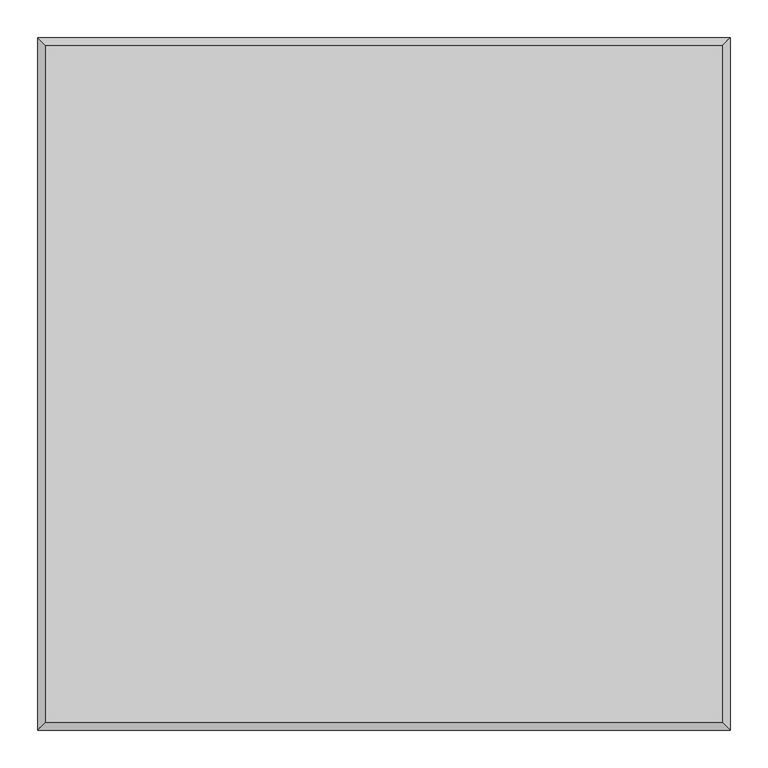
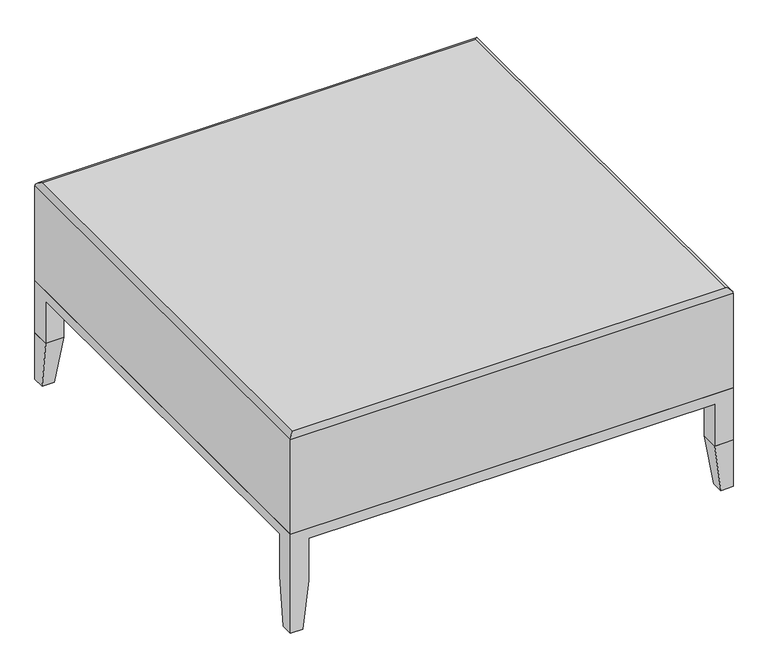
"""IFC4 building model written with IfcOpenShell, lengths in millimetres: furniture geometry, Steelcase Coalesse - Passerelle - Seating - Ottoman : 36D x 36W."""

from ifc_helpers import new_model, si_unit, frame, origin, place, context, project, spatial, ellipse_curve, faceted_brep, source, transform, mapped, element, save
from ifc_brep_helpers import plane_surface, cylinder_surface, advanced_brep


def furniture_ded83b1d(model_context):
    return source(origin(), model_context, "Body", "SolidModel", [
        advanced_brep(
        [(-663.917922, -702.9474749, 422.1580675), (-663.917922, -702.9474749, 215.8999939), (250.482078, -702.9474749, 215.8999939), (250.482078, -702.9474749, 422.1580675), (240.8401576, -693.3055545, 431.7999879), (-654.2760016, -693.3055545, 431.7999879), (250.482078, 211.4525251, 215.8999939), (250.482078, 211.4525251, 422.1580675), (240.8401576, 201.8106047, 431.7999879), (-663.917922, 211.4525251, 215.8999939), (-663.917922, 211.4525251, 422.1580675), (-654.2760016, 201.8106047, 431.7999879)],
        [
            (0, 1),
            (1, 2),
            (2, 3),
            (3, 0),
            (3, 4, ellipse_curve(frame((240.8401576, -693.3055545, 422.1580675), z_axis=(-0.7071067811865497, -0.7071067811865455, 0.0), x_axis=(-0.7071067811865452, 0.7071067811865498, 0.0)), 13.6357346, 9.6419204)),
            (4, 5),
            (5, 0, ellipse_curve(frame((-654.2760016, -693.3055545, 422.1580675), z_axis=(0.7071067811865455, -0.7071067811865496, 0.0), x_axis=(-0.7071067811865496, -0.7071067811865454, 0.0)), 13.6357346, 9.6419204)),
            (2, 6),
            (6, 7),
            (7, 3),
            (7, 8, ellipse_curve(frame((240.8401576, 201.8106047, 422.1580675), z_axis=(0.7071067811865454, -0.7071067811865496, 0.0), x_axis=(-0.7071067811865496, -0.7071067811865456, 0.0)), 13.6357346, 9.6419204)),
            (8, 4),
            (6, 9),
            (9, 10),
            (10, 7),
            (10, 11, ellipse_curve(frame((-654.2760016, 201.8106047, 422.1580675), z_axis=(0.7071067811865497, 0.7071067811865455, 0.0), x_axis=(0.7071067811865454, -0.7071067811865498, 0.0)), 13.6357346, 9.6419204)),
            (11, 8),
            (0, 10),
            (9, 1),
            (5, 11),
        ],
        [
            plane_surface(frame((-663.917922, -702.9474749, 215.8999939), z_axis=(0.0, -1.0, 0.0), x_axis=(1.0, 0.0, 0.0))),
            cylinder_surface(frame((-651.217922, -693.3055545, 422.1580675), z_axis=(-1.0, 0.0, 0.0), x_axis=(0.0, 1.0, 0.0)), 9.6419204),
            plane_surface(frame((250.482078, -702.9474749, 215.8999939), z_axis=(1.0, 0.0, 0.0), x_axis=(0.0, 1.0, 0.0))),
            cylinder_surface(frame((240.8401576, -690.2474749, 422.1580675), z_axis=(0.0, -1.0, 0.0), x_axis=(-1.0, 0.0, 0.0)), 9.6419204),
            plane_surface(frame((250.482078, 211.4525251, 215.8999939), z_axis=(0.0, 1.0, 0.0), x_axis=(-1.0, 0.0, 0.0))),
            cylinder_surface(frame((237.782078, 201.8106047, 422.1580675), z_axis=(1.0, 0.0, 0.0), x_axis=(0.0, -1.0, 0.0)), 9.6419204),
            plane_surface(frame((-663.917922, 211.4525251, 215.8999939), z_axis=(-1.0, 0.0, 0.0), x_axis=(0.0, -1.0, 0.0))),
            cylinder_surface(frame((-654.2760016, 198.7525251, 422.1580675), z_axis=(0.0, 1.0, 0.0), x_axis=(1.0, 0.0, 0.0)), 9.6419204),
            plane_surface(frame((-654.2760016, 201.8106047, 431.7999879), z_axis=(0.0, 0.0, 1.0), x_axis=(0.0, -1.0, 0.0))),
            plane_surface(frame((-651.217922, 198.7525251, 215.8999939), z_axis=(0.0, 0.0, -1.0), x_axis=(0.0, -1.0, 0.0))),
        ],
        [
            (0, [[1, 2, 3, 4]]),
            (1, [[-4, 5, 6, 7]]),
            (2, [[-3, 8, 9, 10]]),
            (3, [[-5, -10, 11, 12]]),
            (4, [[-9, 13, 14, 15]]),
            (5, [[-11, -15, 16, 17]]),
            (6, [[-1, 18, -14, 19]]),
            (7, [[-7, 20, -16, -18]]),
            (8, [[-6, -12, -17, -20]]),
            (9, [[-2, -19, -13, -8]]),
        ],
    ),
        faceted_brep([(-638.517922, -677.5474742, 0.0), (-638.517922, -702.9474749, 0.0), (-663.917922, -702.9474749, 0.0), (-663.917922, -677.5474742, 0.0), (-625.8179341, -664.8474749, 101.600003), (-625.8179341, -702.9474749, 101.600003), (-625.8179341, -702.9474749, 193.2939939), (212.3820901, -702.9474749, 193.2939939), (212.3820901, -702.9474749, 101.600003), (250.482078, -702.9474749, 101.600003), (250.482078, -702.9474749, 215.8999939), (-663.917922, -702.9474749, 215.8999939), (-663.917922, 211.4525251, 215.8999939), (-663.917922, 211.4525251, 101.600003), (-663.917922, 173.3525251, 101.600003), (-663.917922, 173.3525251, 193.2939939), (-663.917922, -664.8474749, 193.2939939), (-663.917922, -664.8474749, 101.600003), (250.482078, 211.4525251, 215.8999939), (212.3820901, 173.3525251, 215.8999939), (212.3820901, -664.8474749, 215.8999939), (-625.8179341, -664.8474749, 215.8999939), (-625.8179341, 173.3525251, 215.8999939), (-625.8179341, 211.4525251, 101.600003), (-625.8179341, 173.3525251, 101.600003), (250.482078, 211.4525251, 101.600003), (250.482078, 173.3525251, 101.600003), (212.3820901, 173.3525251, 101.600003), (212.3820901, 211.4525251, 101.600003), (250.482078, -664.8474749, 101.600003), (212.3820901, -664.8474749, 101.600003), (-625.8179341, 173.3525251, 193.2939939), (-625.8179341, 211.4525251, 193.2939939), (212.3820901, 211.4525251, 193.2939939), (212.3820901, 173.3525251, 193.2939939), (250.482078, 173.3525251, 193.2939939), (250.482078, -664.8474749, 193.2939939), (-625.8179341, -664.8474749, 193.2939939), (212.3820901, -664.8474749, 193.2939939)], [[[0, 1, 2, 3]], [[1, 0, 4, 5]], [[2, 1, 5, 6, 7, 8, 9, 10, 11]], [[3, 2, 11, 12, 13, 14, 15, 16, 17]], [[0, 3, 17, 4]], [[12, 11, 10, 18], [19, 20, 21, 22]], [[14, 13, 23, 24]], [[25, 26, 27, 28]], [[29, 9, 8, 30]], [[14, 24, 31, 15]], [[24, 23, 32, 31]], [[13, 12, 18, 25, 28, 33, 32, 23]], [[28, 27, 34, 33]], [[27, 26, 35, 34]], [[25, 18, 10, 9, 29, 36, 35, 26]], [[5, 4, 37, 6]], [[4, 17, 16, 37]], [[29, 30, 38, 36]], [[30, 8, 7, 38]], [[34, 31, 32, 33]], [[31, 37, 16, 15]], [[37, 38, 7, 6]], [[38, 34, 35, 36]], [[20, 19, 34, 38]], [[21, 20, 38, 37]], [[22, 21, 37, 31]], [[19, 22, 31, 34]]]),
        faceted_brep([(225.082078, -677.5474742, 0.0), (250.482078, -677.5474742, 0.0), (250.482078, -702.9474749, 0.0), (225.082078, -702.9474749, 0.0), (212.3820901, -664.8474749, 101.600003), (212.3820901, -702.9474749, 101.600003), (250.482078, -702.9474749, 101.600003), (250.482078, -664.8474749, 101.600003)], [[[0, 1, 2, 3]], [[4, 5, 6, 7]], [[4, 7, 1, 0]], [[7, 6, 2, 1]], [[6, 5, 3, 2]], [[5, 4, 0, 3]]]),
        faceted_brep([(225.082078, 211.4525251, 0.0), (250.482078, 211.4525251, 0.0), (250.482078, 186.052513, 0.0), (225.082078, 186.052513, 0.0), (212.3820901, 211.4525251, 101.600003), (212.3820901, 173.3525251, 101.600003), (250.482078, 173.3525251, 101.600003), (250.482078, 211.4525251, 101.600003)], [[[0, 1, 2, 3]], [[4, 5, 6, 7]], [[4, 7, 1, 0]], [[7, 6, 2, 1]], [[6, 5, 3, 2]], [[5, 4, 0, 3]]]),
        faceted_brep([(-638.517922, 211.4525251, 0.0), (-638.517922, 186.052513, 0.0), (-663.917922, 186.052513, 0.0), (-663.917922, 211.4525251, 0.0), (-625.8179341, 211.4525251, 101.600003), (-663.917922, 211.4525251, 101.600003), (-663.917922, 173.3525251, 101.600003), (-625.8179341, 173.3525251, 101.600003)], [[[0, 1, 2, 3]], [[4, 5, 6, 7]], [[4, 7, 1, 0]], [[7, 6, 2, 1]], [[6, 5, 3, 2]], [[5, 4, 0, 3]]]),
    ])


if __name__ == "__main__":
    model = new_model("IFC4")
    model_context = context("Model", 3, world=origin())
    ifc_project = project(units=[si_unit("LENGTHUNIT", "METRE", prefix="MILLI")], contexts=[model_context])
    site = spatial("IfcSite", under=ifc_project)
    building = spatial("IfcBuilding", under=site)
    placement = place(None, origin())
    furniture_shape = furniture_ded83b1d(model_context)
    element("IfcFurniture", 1, ObjectType="Steelcase Coalesse - Passerelle - Seating - Ottoman : 36D x 36W", at=placement, inside=building, context=model_context, shape_type="MappedRepresentation", body=[
        mapped(furniture_shape, transform((0.0, 0.0, 0.0), x_axis=(1.0, 0.0, 0.0), y_axis=(0.0, 1.0, 0.0), z_axis=(0.0, 0.0, 1.0))),
    ])
    save(model, "model.ifc")
